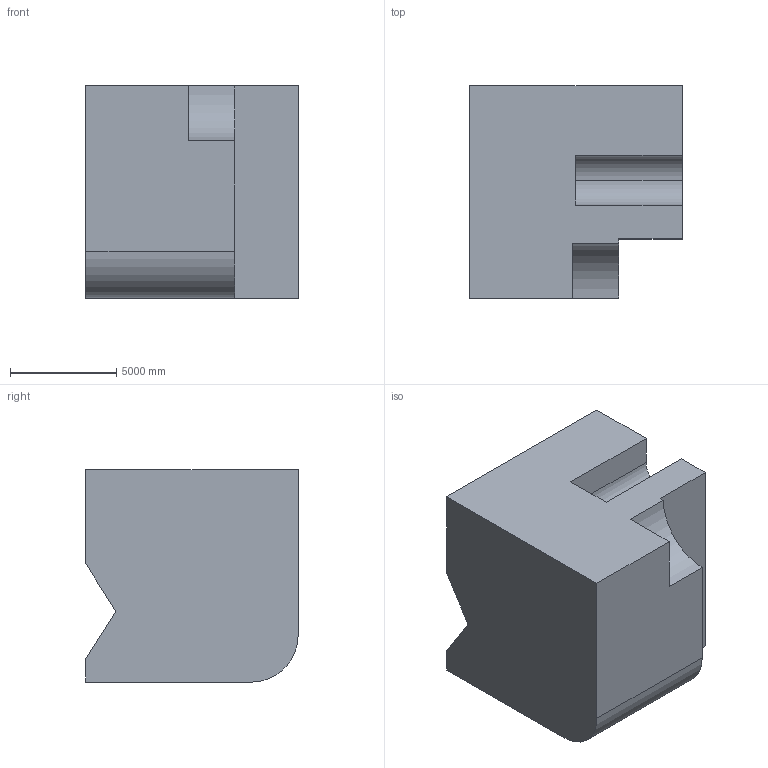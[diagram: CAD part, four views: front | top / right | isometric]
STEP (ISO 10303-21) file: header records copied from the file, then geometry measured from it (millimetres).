
FILE_DESCRIPTION (( 'STEP AP203' ), '1' );
FILE_NAME ('428.STEP', '2022-07-29T11:14:31', ( 'user' ), ( '' ), 'SwSTEP 2.0', 'SolidWorks 2021', '' );
FILE_SCHEMA (( 'CONFIG_CONTROL_DESIGN' ));
Length unit declared in the file: centimetre
Products named in the file (1): 428
Bounding box: 10000 x 10000 x 10000 mm (x, y, z)
Volume: 839645862679.9 mm3; surface area: 594712866.3 mm2
Topology: 1 solids, 1 shells, 19 faces, 51 edges, 34 vertices
Faces by surface type: plane 15, cylinder 4
Entity records: 670 total; most frequent: CARTESIAN_POINT 105, ORIENTED_EDGE 102, DIRECTION 99, EDGE_CURVE 51, LINE 43, VECTOR 43, VERTEX_POINT 34, AXIS2_PLACEMENT_3D 28
